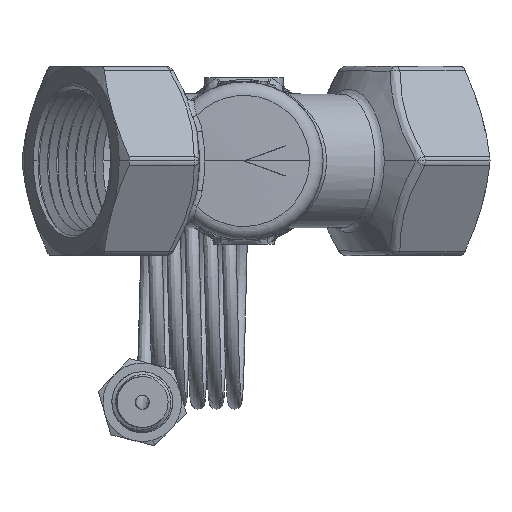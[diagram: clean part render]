
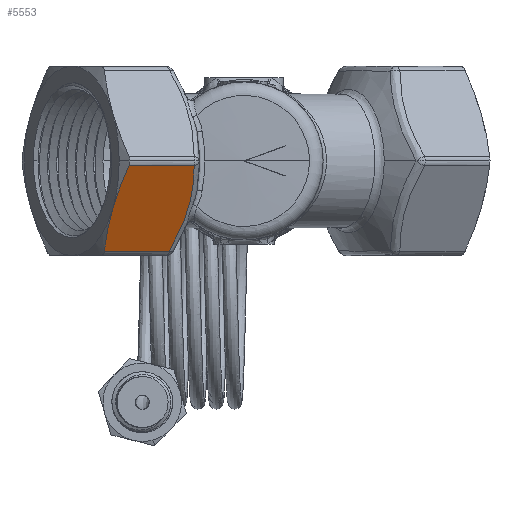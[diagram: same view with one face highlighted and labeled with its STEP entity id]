
A CAD part, front view. The second image highlights one B-rep face of the part: STEP entity #5553.
In plain terms, the highlighted planar face has unit normal (0.433, -0.75, -0.5).
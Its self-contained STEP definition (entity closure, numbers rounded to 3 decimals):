
#432 = CARTESIAN_POINT ( 'NONE',  ( -27.368, -71.524, -1. ) ) ;
#508 = CARTESIAN_POINT ( 'NONE',  ( -14.743, -57.533, -11.053 ) ) ;
#2326 = CARTESIAN_POINT ( 'NONE',  ( -16.945, -55.19, -16.475 ) ) ;
#2571 = EDGE_CURVE ( 'NONE', #11403, #8718, #9169, .T. ) ;
#2708 = B_SPLINE_CURVE_WITH_KNOTS ( 'NONE', 3,
 ( #17000, #12084, #2326, #23877, #26963, #14099, #508, #25885, #11201, #20080, #31871, #27355, #15762, #12469 ),
 .UNSPECIFIED., .F., .F.,
 ( 4, 2, 2, 2, 2, 2, 4 ),
 ( 0., 0.005, 0.008, 0.011, 0.013, 0.016, 0.022 ),
 .UNSPECIFIED. ) ;
#2841 = VERTEX_POINT ( 'NONE', #20540 ) ;
#3066 = DIRECTION ( 'NONE',  ( 0., -0.555, 0.832 ) ) ;
#3555 = DIRECTION ( 'NONE',  ( 0.866, 0.5, 0. ) ) ;
#3850 = ORIENTED_EDGE ( 'NONE', *, *, #27936, .T. ) ;
#3934 = CARTESIAN_POINT ( 'NONE',  ( -15.346, -52.25, -19.5 ) ) ;
#4074 = CARTESIAN_POINT ( 'NONE',  ( -32.708, -62.274, -19.5 ) ) ;
#4143 = CARTESIAN_POINT ( 'NONE',  ( -27.368, -71.524, -1. ) ) ;
#5537 = B_SPLINE_CURVE_WITH_KNOTS ( 'NONE', 3,
 ( #9103, #23431, #32126, #26895, #20528, #432 ),
 .UNSPECIFIED., .F., .F.,
 ( 4, 2, 4 ),
 ( 0.011, 0.016, 0.021 ),
 .UNSPECIFIED. ) ;
#5553 = ADVANCED_FACE ( 'NONE', ( #26996 ), #32237, .F. ) ;
#6383 = CARTESIAN_POINT ( 'NONE',  ( -32.285, -64.085, -16.417 ) ) ;
#8718 = VERTEX_POINT ( 'NONE', #4143 ) ;
#9103 = CARTESIAN_POINT ( 'NONE',  ( -30.862, -67.375, -10.25 ) ) ;
#9169 = LINE ( 'NONE', #26954, #36574 ) ;
#9821 = EDGE_LOOP ( 'NONE', ( #11068, #29288, #3850, #19911, #32646 ) ) ;
#10211 = VERTEX_POINT ( 'NONE', #31678 ) ;
#11068 = ORIENTED_EDGE ( 'NONE', *, *, #28849, .F. ) ;
#11201 = CARTESIAN_POINT ( 'NONE',  ( -14.095, -58.729, -8.699 ) ) ;
#11403 = VERTEX_POINT ( 'NONE', #35511 ) ;
#12084 = CARTESIAN_POINT ( 'NONE',  ( -17.742, -54.638, -17.994 ) ) ;
#12469 = CARTESIAN_POINT ( 'NONE',  ( -13.271, -63.386, -1. ) ) ;
#14099 = CARTESIAN_POINT ( 'NONE',  ( -15.004, -57.16, -11.839 ) ) ;
#14465 = DIRECTION ( 'NONE',  ( -0.433, 0.75, 0.5 ) ) ;
#15762 = CARTESIAN_POINT ( 'NONE',  ( -13.271, -62.38, -2.509 ) ) ;
#17000 = CARTESIAN_POINT ( 'NONE',  ( -18.612, -54.136, -19.5 ) ) ;
#18171 = AXIS2_PLACEMENT_3D ( 'NONE', #35124, #14465, #3066 ) ;
#18182 = CARTESIAN_POINT ( 'NONE',  ( -31.678, -65.79, -13.333 ) ) ;
#19459 = EDGE_CURVE ( 'NONE', #2841, #8718, #5537, .T. ) ;
#19911 = ORIENTED_EDGE ( 'NONE', *, *, #2571, .T. ) ;
#20080 = CARTESIAN_POINT ( 'NONE',  ( -13.774, -59.587, -7.133 ) ) ;
#20528 = CARTESIAN_POINT ( 'NONE',  ( -28.072, -70.903, -2.542 ) ) ;
#20540 = CARTESIAN_POINT ( 'NONE',  ( -30.862, -67.375, -10.25 ) ) ;
#21270 = CARTESIAN_POINT ( 'NONE',  ( -31.307, -66.604, -11.792 ) ) ;
#23323 = VECTOR ( 'NONE', #3555, 1000. ) ;
#23431 = CARTESIAN_POINT ( 'NONE',  ( -30.417, -68.146, -8.708 ) ) ;
#23877 = CARTESIAN_POINT ( 'NONE',  ( -15.905, -56.127, -14.169 ) ) ;
#23979 = CARTESIAN_POINT ( 'NONE',  ( -32.522, -63.195, -17.958 ) ) ;
#25686 = B_SPLINE_CURVE_WITH_KNOTS ( 'NONE', 3,
 ( #4074, #23979, #6383, #18182, #21270, #29955 ),
 .UNSPECIFIED., .F., .F.,
 ( 4, 2, 4 ),
 ( 0., 0.005, 0.011 ),
 .UNSPECIFIED. ) ;
#25885 = CARTESIAN_POINT ( 'NONE',  ( -14.289, -58.318, -9.482 ) ) ;
#26582 = DIRECTION ( 'NONE',  ( -0.866, -0.5, 0. ) ) ;
#26611 = VERTEX_POINT ( 'NONE', #36918 ) ;
#26895 = CARTESIAN_POINT ( 'NONE',  ( -28.725, -70.252, -4.083 ) ) ;
#26954 = CARTESIAN_POINT ( 'NONE',  ( -10.006, -61.5, -1. ) ) ;
#26963 = CARTESIAN_POINT ( 'NONE',  ( -15.585, -56.457, -13.396 ) ) ;
#26996 = FACE_OUTER_BOUND ( 'NONE', #9821, .T. ) ;
#27355 = CARTESIAN_POINT ( 'NONE',  ( -13.351, -61.409, -4.033 ) ) ;
#27936 = EDGE_CURVE ( 'NONE', #10211, #11403, #2708, .T. ) ;
#28849 = EDGE_CURVE ( 'NONE', #26611, #2841, #25686, .T. ) ;
#29288 = ORIENTED_EDGE ( 'NONE', *, *, #29361, .T. ) ;
#29361 = EDGE_CURVE ( 'NONE', #26611, #10211, #30008, .T. ) ;
#29955 = CARTESIAN_POINT ( 'NONE',  ( -30.862, -67.375, -10.25 ) ) ;
#30008 = LINE ( 'NONE', #3934, #23323 ) ;
#31678 = CARTESIAN_POINT ( 'NONE',  ( -18.612, -54.136, -19.5 ) ) ;
#31871 = CARTESIAN_POINT ( 'NONE',  ( -13.646, -60.033, -6.353 ) ) ;
#32126 = CARTESIAN_POINT ( 'NONE',  ( -29.898, -68.874, -7.167 ) ) ;
#32237 = PLANE ( 'NONE',  #18171 ) ;
#32646 = ORIENTED_EDGE ( 'NONE', *, *, #19459, .F. ) ;
#35124 = CARTESIAN_POINT ( 'NONE',  ( -9.099, -63.071, 2.142 ) ) ;
#35511 = CARTESIAN_POINT ( 'NONE',  ( -13.271, -63.386, -1. ) ) ;
#36574 = VECTOR ( 'NONE', #26582, 1000. ) ;
#36918 = CARTESIAN_POINT ( 'NONE',  ( -32.708, -62.274, -19.5 ) ) ;
